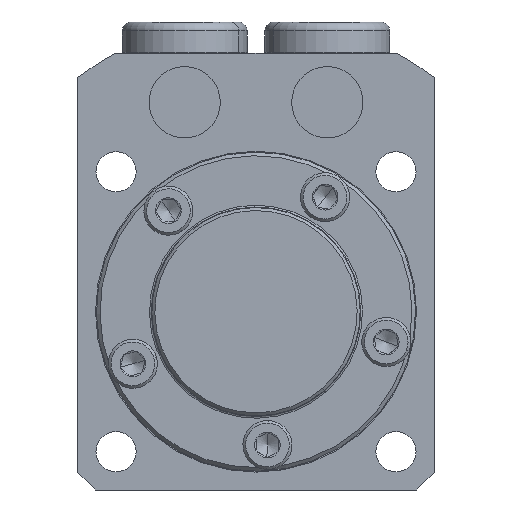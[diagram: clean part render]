
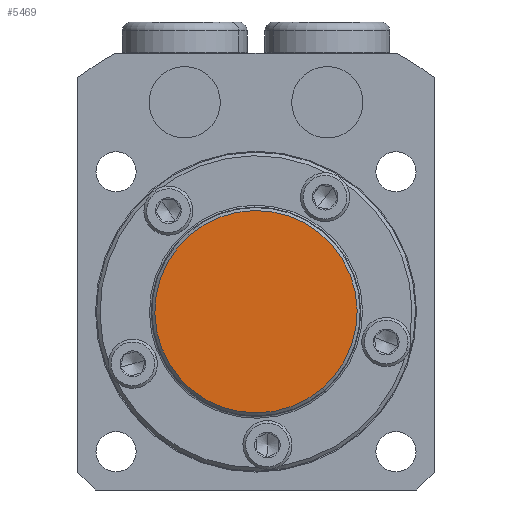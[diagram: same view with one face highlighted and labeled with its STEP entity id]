
A CAD part, front view. The second image highlights one B-rep face of the part: STEP entity #5469.
In plain terms, the highlighted planar face has unit normal (0, -1, 0).
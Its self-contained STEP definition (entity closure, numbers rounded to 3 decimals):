
#656 = EDGE_CURVE ( 'NONE', #3555, #3573, #4193, .T. ) ;
#942 = CARTESIAN_POINT ( 'NONE',  ( 0., -6., 0. ) ) ;
#943 = DIRECTION ( 'NONE',  ( 0., -1., 0. ) ) ;
#944 = DIRECTION ( 'NONE',  ( 0., 0., -1. ) ) ;
#1167 = CARTESIAN_POINT ( 'NONE',  ( 0., -6., 11.35 ) ) ;
#1185 = CARTESIAN_POINT ( 'NONE',  ( 0., -6., -11.35 ) ) ;
#1657 = EDGE_LOOP ( 'NONE', ( #4360, #4361 ) ) ;
#1857 = AXIS2_PLACEMENT_3D ( 'NONE', #3287, #3298, #3299 ) ;
#2443 = CIRCLE ( 'NONE', #2452, 11.35 ) ;
#2452 = AXIS2_PLACEMENT_3D ( 'NONE', #942, #943, #944 ) ;
#2802 = EDGE_CURVE ( 'NONE', #3573, #3555, #2443, .T. ) ;
#3287 = CARTESIAN_POINT ( 'NONE',  ( 0., -6., 0. ) ) ;
#3295 = FACE_OUTER_BOUND ( 'NONE', #1657, .T. ) ;
#3296 = PLANE ( 'NONE',  #1857 ) ;
#3298 = DIRECTION ( 'NONE',  ( 0., -1., 0. ) ) ;
#3299 = DIRECTION ( 'NONE',  ( 0., 0., -1. ) ) ;
#3555 = VERTEX_POINT ( 'NONE', #1167 ) ;
#3573 = VERTEX_POINT ( 'NONE', #1185 ) ;
#4188 = AXIS2_PLACEMENT_3D ( 'NONE', #4432, #4433, #4434 ) ;
#4193 = CIRCLE ( 'NONE', #4188, 11.35 ) ;
#4360 = ORIENTED_EDGE ( 'NONE', *, *, #656, .T. ) ;
#4361 = ORIENTED_EDGE ( 'NONE', *, *, #2802, .T. ) ;
#4432 = CARTESIAN_POINT ( 'NONE',  ( 0., -6., 0. ) ) ;
#4433 = DIRECTION ( 'NONE',  ( 0., -1., 0. ) ) ;
#4434 = DIRECTION ( 'NONE',  ( 0., 0., -1. ) ) ;
#5469 = ADVANCED_FACE ( 'NONE', ( #3295 ), #3296, .T. ) ;
